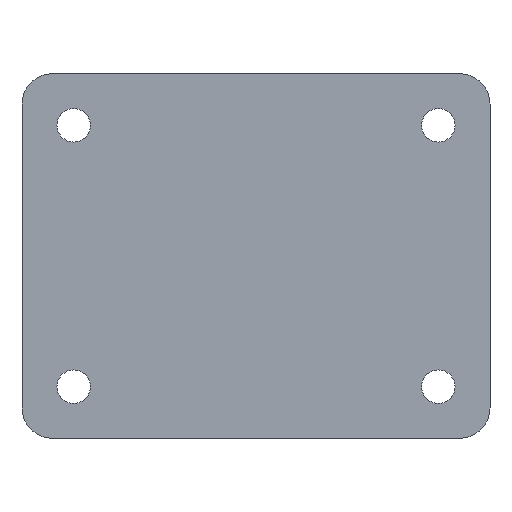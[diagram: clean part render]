
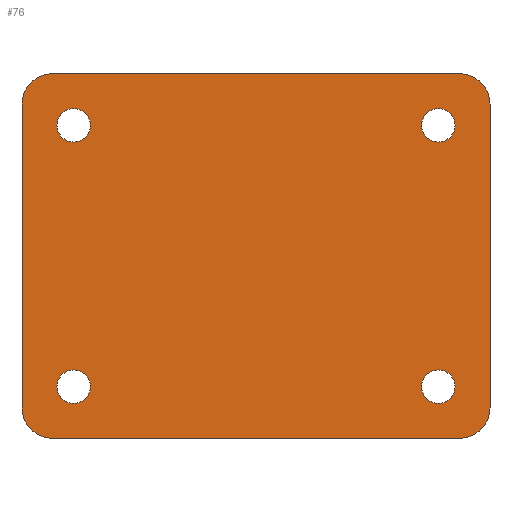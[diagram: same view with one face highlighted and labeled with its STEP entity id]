
A CAD part, front view. The second image highlights one B-rep face of the part: STEP entity #76.
In plain terms, the highlighted planar face has unit normal (0, -1, 0).
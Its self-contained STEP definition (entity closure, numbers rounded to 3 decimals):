
#76 = ADVANCED_FACE( '', ( #156, #157, #158, #159, #160 ), #161, .F. );
#156 = FACE_BOUND( '', #380, .T. );
#157 = FACE_BOUND( '', #381, .T. );
#158 = FACE_BOUND( '', #382, .T. );
#159 = FACE_BOUND( '', #383, .T. );
#160 = FACE_OUTER_BOUND( '', #384, .T. );
#161 = PLANE( '', #385 );
#380 = EDGE_LOOP( '', ( #590 ) );
#381 = EDGE_LOOP( '', ( #591 ) );
#382 = EDGE_LOOP( '', ( #592 ) );
#383 = EDGE_LOOP( '', ( #593 ) );
#384 = EDGE_LOOP( '', ( #594, #595, #596, #597, #598, #599, #600, #601 ) );
#385 = AXIS2_PLACEMENT_3D( '', #602, #603, #604 );
#590 = ORIENTED_EDGE( '', *, *, #686, .T. );
#591 = ORIENTED_EDGE( '', *, *, #657, .T. );
#592 = ORIENTED_EDGE( '', *, *, #648, .T. );
#593 = ORIENTED_EDGE( '', *, *, #709, .T. );
#594 = ORIENTED_EDGE( '', *, *, #650, .F. );
#595 = ORIENTED_EDGE( '', *, *, #692, .F. );
#596 = ORIENTED_EDGE( '', *, *, #710, .F. );
#597 = ORIENTED_EDGE( '', *, *, #688, .F. );
#598 = ORIENTED_EDGE( '', *, *, #677, .F. );
#599 = ORIENTED_EDGE( '', *, *, #659, .F. );
#600 = ORIENTED_EDGE( '', *, *, #674, .F. );
#601 = ORIENTED_EDGE( '', *, *, #625, .F. );
#602 = CARTESIAN_POINT( '', ( -33.5, 0., 25. ) );
#603 = DIRECTION( '', ( 0., 1., 0. ) );
#604 = DIRECTION( '', ( 0., 0., 1. ) );
#625 = EDGE_CURVE( '', #715, #716, #717, .T. );
#648 = EDGE_CURVE( '', #759, #759, #760, .T. );
#650 = EDGE_CURVE( '', #762, #715, #763, .T. );
#657 = EDGE_CURVE( '', #774, #774, #775, .T. );
#659 = EDGE_CURVE( '', #777, #778, #779, .T. );
#674 = EDGE_CURVE( '', #716, #777, #804, .T. );
#677 = EDGE_CURVE( '', #778, #807, #808, .T. );
#686 = EDGE_CURVE( '', #820, #820, #821, .T. );
#688 = EDGE_CURVE( '', #807, #823, #824, .T. );
#692 = EDGE_CURVE( '', #829, #762, #830, .T. );
#709 = EDGE_CURVE( '', #854, #854, #855, .T. );
#710 = EDGE_CURVE( '', #823, #829, #856, .T. );
#715 = VERTEX_POINT( '', #861 );
#716 = VERTEX_POINT( '', #862 );
#717 = CIRCLE( '', #863, 5. );
#759 = VERTEX_POINT( '', #993 );
#760 = CIRCLE( '', #994, 2.75 );
#762 = VERTEX_POINT( '', #996 );
#763 = LINE( '', #997, #998 );
#774 = VERTEX_POINT( '', #1015 );
#775 = CIRCLE( '', #1016, 2.75 );
#777 = VERTEX_POINT( '', #1018 );
#778 = VERTEX_POINT( '', #1019 );
#779 = CIRCLE( '', #1020, 5. );
#804 = LINE( '', #1086, #1087 );
#807 = VERTEX_POINT( '', #1091 );
#808 = LINE( '', #1092, #1093 );
#820 = VERTEX_POINT( '', #1118 );
#821 = CIRCLE( '', #1119, 2.75 );
#823 = VERTEX_POINT( '', #1121 );
#824 = CIRCLE( '', #1122, 5. );
#829 = VERTEX_POINT( '', #1128 );
#830 = CIRCLE( '', #1129, 5. );
#854 = VERTEX_POINT( '', #1199 );
#855 = CIRCLE( '', #1200, 2.75 );
#856 = LINE( '', #1201, #1202 );
#861 = CARTESIAN_POINT( '', ( -38.5, 0., 25. ) );
#862 = CARTESIAN_POINT( '', ( -33.5, 0., 30. ) );
#863 = AXIS2_PLACEMENT_3D( '', #1206, #1207, #1208 );
#993 = CARTESIAN_POINT( '', ( 32.75, 0., 21.5 ) );
#994 = AXIS2_PLACEMENT_3D( '', #1217, #1218, #1219 );
#996 = CARTESIAN_POINT( '', ( -38.5, 0., -25. ) );
#997 = CARTESIAN_POINT( '', ( -38.5, 0., -25. ) );
#998 = VECTOR( '', #1220, 1000. );
#1015 = CARTESIAN_POINT( '', ( -27.25, 0., -21.5 ) );
#1016 = AXIS2_PLACEMENT_3D( '', #1227, #1228, #1229 );
#1018 = CARTESIAN_POINT( '', ( 33.5, 0., 30. ) );
#1019 = CARTESIAN_POINT( '', ( 38.5, 0., 25. ) );
#1020 = AXIS2_PLACEMENT_3D( '', #1230, #1231, #1232 );
#1086 = CARTESIAN_POINT( '', ( -33.5, 0., 30. ) );
#1087 = VECTOR( '', #1238, 1000. );
#1091 = CARTESIAN_POINT( '', ( 38.5, 0., -25. ) );
#1092 = CARTESIAN_POINT( '', ( 38.5, 0., 25. ) );
#1093 = VECTOR( '', #1240, 1000. );
#1118 = CARTESIAN_POINT( '', ( -27.25, 0., 21.5 ) );
#1119 = AXIS2_PLACEMENT_3D( '', #1247, #1248, #1249 );
#1121 = CARTESIAN_POINT( '', ( 33.5, 0., -30. ) );
#1122 = AXIS2_PLACEMENT_3D( '', #1250, #1251, #1252 );
#1128 = CARTESIAN_POINT( '', ( -33.5, 0., -30. ) );
#1129 = AXIS2_PLACEMENT_3D( '', #1257, #1258, #1259 );
#1199 = CARTESIAN_POINT( '', ( 32.75, 0., -21.5 ) );
#1200 = AXIS2_PLACEMENT_3D( '', #1268, #1269, #1270 );
#1201 = CARTESIAN_POINT( '', ( 33.5, 0., -30. ) );
#1202 = VECTOR( '', #1271, 1000. );
#1206 = CARTESIAN_POINT( '', ( -33.5, 0., 25. ) );
#1207 = DIRECTION( '', ( 0., 1., 0. ) );
#1208 = DIRECTION( '', ( 1., 0., 0. ) );
#1217 = CARTESIAN_POINT( '', ( 30., 0., 21.5 ) );
#1218 = DIRECTION( '', ( 0., 1., 0. ) );
#1219 = DIRECTION( '', ( 1., 0., 0. ) );
#1220 = DIRECTION( '', ( 0., 0., 1. ) );
#1227 = CARTESIAN_POINT( '', ( -30., 0., -21.5 ) );
#1228 = DIRECTION( '', ( 0., 1., 0. ) );
#1229 = DIRECTION( '', ( 1., 0., 0. ) );
#1230 = CARTESIAN_POINT( '', ( 33.5, 0., 25. ) );
#1231 = DIRECTION( '', ( 0., 1., 0. ) );
#1232 = DIRECTION( '', ( 1., 0., 0. ) );
#1238 = DIRECTION( '', ( 1., 0., 0. ) );
#1240 = DIRECTION( '', ( 0., 0., -1. ) );
#1247 = CARTESIAN_POINT( '', ( -30., 0., 21.5 ) );
#1248 = DIRECTION( '', ( 0., 1., 0. ) );
#1249 = DIRECTION( '', ( 1., 0., 0. ) );
#1250 = CARTESIAN_POINT( '', ( 33.5, 0., -25. ) );
#1251 = DIRECTION( '', ( 0., 1., 0. ) );
#1252 = DIRECTION( '', ( 1., 0., 0. ) );
#1257 = CARTESIAN_POINT( '', ( -33.5, 0., -25. ) );
#1258 = DIRECTION( '', ( 0., 1., 0. ) );
#1259 = DIRECTION( '', ( 1., 0., 0. ) );
#1268 = CARTESIAN_POINT( '', ( 30., 0., -21.5 ) );
#1269 = DIRECTION( '', ( 0., 1., 0. ) );
#1270 = DIRECTION( '', ( 1., 0., 0. ) );
#1271 = DIRECTION( '', ( -1., 0., 0. ) );
